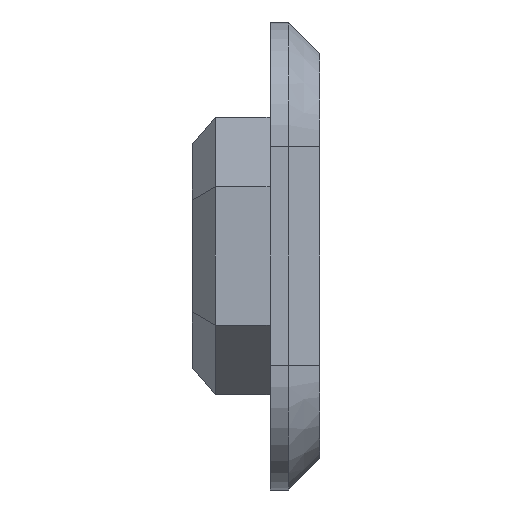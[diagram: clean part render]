
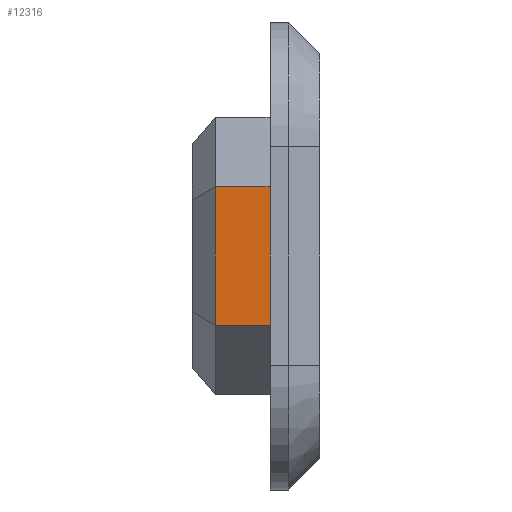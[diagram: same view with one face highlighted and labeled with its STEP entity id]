
A CAD part, left-side view. The second image highlights one B-rep face of the part: STEP entity #12316.
In plain terms, the highlighted planar face has unit normal (-1, 0, 0).
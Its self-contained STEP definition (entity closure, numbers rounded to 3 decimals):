
#251=PLANE('',#12834);
#726=FACE_OUTER_BOUND('',#1451,.T.);
#1451=EDGE_LOOP('',(#9933,#9934,#9935,#9936));
#2323=LINE('',#22334,#3311);
#2389=LINE('',#22469,#3377);
#2391=LINE('',#22473,#3379);
#2392=LINE('',#22474,#3380);
#3311=VECTOR('',#13746,10.);
#3377=VECTOR('',#13868,10.);
#3379=VECTOR('',#13872,10.);
#3380=VECTOR('',#13873,10.);
#5491=VERTEX_POINT('',#22326);
#5493=VERTEX_POINT('',#22332);
#5534=VERTEX_POINT('',#22468);
#5535=VERTEX_POINT('',#22472);
#7040=EDGE_CURVE('',#5493,#5491,#2323,.T.);
#7106=EDGE_CURVE('',#5534,#5491,#2389,.F.);
#7108=EDGE_CURVE('',#5535,#5493,#2391,.F.);
#7109=EDGE_CURVE('',#5534,#5535,#2392,.F.);
#9933=ORIENTED_EDGE('',*,*,#7040,.F.);
#9934=ORIENTED_EDGE('',*,*,#7108,.F.);
#9935=ORIENTED_EDGE('',*,*,#7109,.F.);
#9936=ORIENTED_EDGE('',*,*,#7106,.T.);
#12316=ADVANCED_FACE('',(#726),#251,.T.);
#12834=AXIS2_PLACEMENT_3D('',#22471,#13870,#13871);
#13746=DIRECTION('',(0.,0.,1.));
#13868=DIRECTION('',(0.,-1.,0.));
#13870=DIRECTION('center_axis',(-1.,0.,0.));
#13871=DIRECTION('ref_axis',(0.,0.,1.));
#13872=DIRECTION('',(0.,-1.,0.));
#13873=DIRECTION('',(0.,0.,1.));
#22326=CARTESIAN_POINT('',(21.15,-9.25,-8.277));
#22332=CARTESIAN_POINT('',(21.15,-9.25,-12.723));
#22334=CARTESIAN_POINT('',(21.15,-9.25,-11.655));
#22468=CARTESIAN_POINT('',(21.15,-11.,-8.277));
#22469=CARTESIAN_POINT('',(21.15,-11.,-8.277));
#22471=CARTESIAN_POINT('Origin',(21.15,-11.,-12.809));
#22472=CARTESIAN_POINT('',(21.15,-11.,-12.723));
#22473=CARTESIAN_POINT('',(21.15,-11.,-12.723));
#22474=CARTESIAN_POINT('',(21.15,-11.,-11.655));
